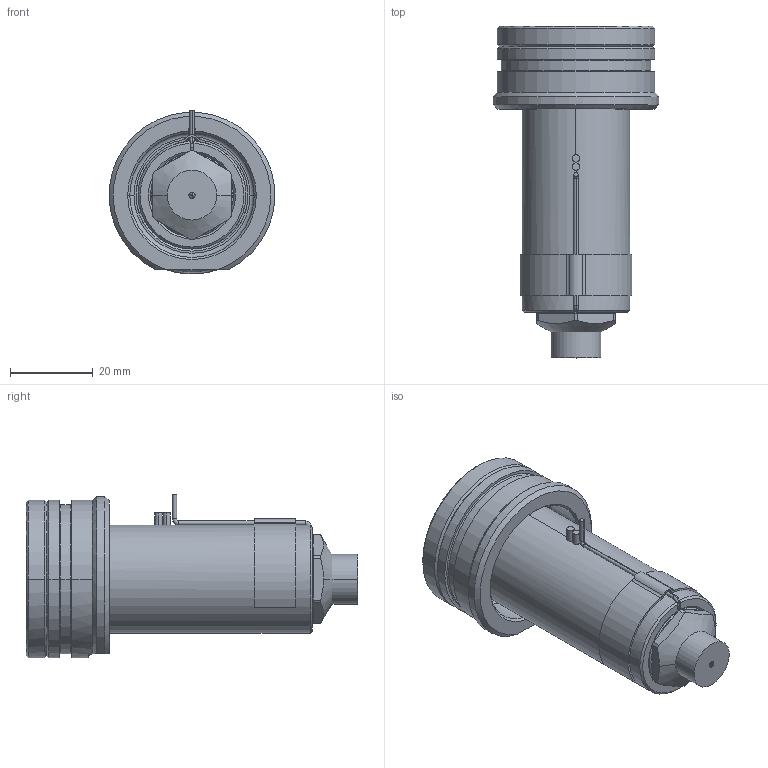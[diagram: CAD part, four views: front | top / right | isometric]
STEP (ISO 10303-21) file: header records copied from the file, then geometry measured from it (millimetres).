
FILE_DESCRIPTION((''),'2;1');
FILE_NAME('EO08_PG-FB_WR_060_SW','2024-02-19T11:30:38',('sundharh'),(''),'CREO PARAMETRIC BY PTC INC, 2023154','CREO PARAMETRIC BY PTC INC, 2023154','');
FILE_SCHEMA(('CONFIG_CONTROL_DESIGN'));
Length unit declared in the file: millimetre
Products named in the file (1): EO08_PG-FB_WR_060_SW
Bounding box: 39.88 x 80 x 39.52 mm (x, y, z)
Volume: 44914.4 mm3; surface area: 15363 mm2
Topology: 1 solids, 1 shells, 208 faces, 554 edges, 342 vertices
Faces by surface type: cylinder 81, plane 58, cone 43, torus 19, bspline 4, sphere 3
Entity records: 7965 total; most frequent: CARTESIAN_POINT 2673, DIRECTION 1166, ORIENTED_EDGE 1096, EDGE_CURVE 548, AXIS2_PLACEMENT_3D 487, VERTEX_POINT 342, CIRCLE 283, EDGE_LOOP 226
